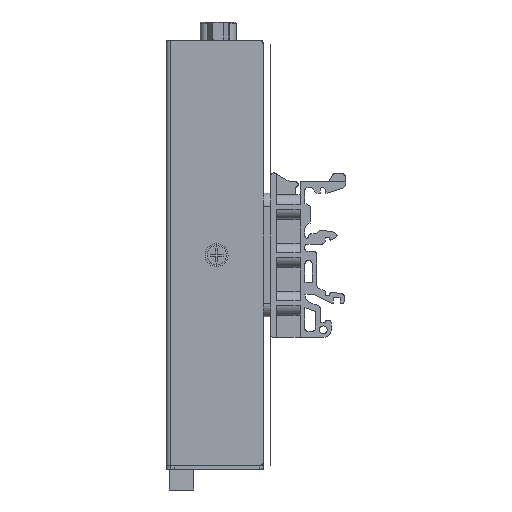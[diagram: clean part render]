
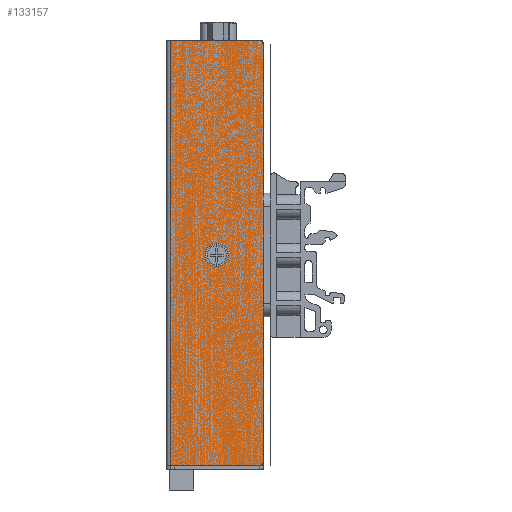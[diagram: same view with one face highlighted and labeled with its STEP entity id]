
A CAD part, left-side view. The second image highlights one B-rep face of the part: STEP entity #133157.
In plain terms, the highlighted planar face has unit normal (-1, 0, 0).
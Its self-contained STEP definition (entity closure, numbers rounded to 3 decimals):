
#130614=DIRECTION('',(0.,0.,-1.));
#130615=VECTOR('',#130614,110.);
#130616=CARTESIAN_POINT('',(-37.9,24.,55.5));
#130617=LINE('',#130616,#130615);
#130632=CARTESIAN_POINT('',(-37.9,1.,-53.5));
#130633=DIRECTION('',(-1.,0.,0.));
#130634=DIRECTION('',(0.,0.,-1.));
#130635=AXIS2_PLACEMENT_3D('',#130632,#130633,#130634);
#130637=DIRECTION('',(0.,-1.,0.));
#130638=VECTOR('',#130637,23.);
#130639=CARTESIAN_POINT('',(-37.9,24.,-54.5));
#130640=LINE('',#130639,#130638);
#130641=DIRECTION('',(0.,1.,0.));
#130642=VECTOR('',#130641,23.);
#130643=CARTESIAN_POINT('',(-37.9,1.,55.5));
#130644=LINE('',#130643,#130642);
#130645=CARTESIAN_POINT('',(-37.9,1.,54.5));
#130646=DIRECTION('',(-1.,0.,0.));
#130647=DIRECTION('',(0.,-1.,0.));
#130648=AXIS2_PLACEMENT_3D('',#130645,#130646,#130647);
#130650=DIRECTION('',(0.,0.,1.));
#130651=VECTOR('',#130650,108.);
#130652=CARTESIAN_POINT('',(-37.9,0.,-53.5));
#130653=LINE('',#130652,#130651);
#130654=CARTESIAN_POINT('',(-37.9,12.,0.));
#130655=DIRECTION('',(1.,0.,0.));
#130656=DIRECTION('',(0.,0.,1.));
#130657=AXIS2_PLACEMENT_3D('',#130654,#130655,#130656);
#130659=CARTESIAN_POINT('',(-37.9,12.,0.));
#130660=DIRECTION('',(1.,0.,0.));
#130661=DIRECTION('',(0.,0.,-1.));
#130662=AXIS2_PLACEMENT_3D('',#130659,#130660,#130661);
#131995=CARTESIAN_POINT('',(-37.9,24.,55.5));
#131996=CARTESIAN_POINT('',(-37.9,24.,-54.5));
#131997=VERTEX_POINT('',#131995);
#131998=VERTEX_POINT('',#131996);
#132069=CARTESIAN_POINT('',(-37.9,1.,-54.5));
#132070=CARTESIAN_POINT('',(-37.9,0.,-53.5));
#132071=VERTEX_POINT('',#132069);
#132072=VERTEX_POINT('',#132070);
#132091=CARTESIAN_POINT('',(-37.9,0.,54.5));
#132092=CARTESIAN_POINT('',(-37.9,1.,55.5));
#132093=VERTEX_POINT('',#132091);
#132094=VERTEX_POINT('',#132092);
#132139=CARTESIAN_POINT('',(-37.9,12.,2.953));
#132140=CARTESIAN_POINT('',(-37.9,12.,-2.953));
#132141=VERTEX_POINT('',#132139);
#132142=VERTEX_POINT('',#132140);
#133133=CARTESIAN_POINT('',(-37.9,25.,-54.5));
#133134=DIRECTION('',(-1.,0.,0.));
#133135=DIRECTION('',(0.,0.,-1.));
#133136=AXIS2_PLACEMENT_3D('',#133133,#133134,#133135);
#133137=PLANE('',#133136);
#133139=ORIENTED_EDGE('',*,*,#133138,.F.);
#133141=ORIENTED_EDGE('',*,*,#133140,.F.);
#133142=ORIENTED_EDGE('',*,*,#133117,.F.);
#133144=ORIENTED_EDGE('',*,*,#133143,.F.);
#133146=ORIENTED_EDGE('',*,*,#133145,.F.);
#133148=ORIENTED_EDGE('',*,*,#133147,.F.);
#133149=EDGE_LOOP('',(#133139,#133141,#133142,#133144,#133146,#133148));
#133150=FACE_OUTER_BOUND('',#133149,.F.);
#133152=ORIENTED_EDGE('',*,*,#133151,.F.);
#133154=ORIENTED_EDGE('',*,*,#133153,.F.);
#133155=EDGE_LOOP('',(#133152,#133154));
#133156=FACE_BOUND('',#133155,.F.);
#130636=CIRCLE('',#130635,1.);
#130649=CIRCLE('',#130648,1.);
#130658=CIRCLE('',#130657,2.953);
#130663=CIRCLE('',#130662,2.953);
#133117=EDGE_CURVE('',#131997,#131998,#130617,.T.);
#133138=EDGE_CURVE('',#132071,#132072,#130636,.T.);
#133140=EDGE_CURVE('',#131998,#132071,#130640,.T.);
#133143=EDGE_CURVE('',#132094,#131997,#130644,.T.);
#133145=EDGE_CURVE('',#132093,#132094,#130649,.T.);
#133147=EDGE_CURVE('',#132072,#132093,#130653,.T.);
#133151=EDGE_CURVE('',#132141,#132142,#130658,.T.);
#133153=EDGE_CURVE('',#132142,#132141,#130663,.T.);
#133157=ADVANCED_FACE('',(#133150,#133156),#133137,.T.);
